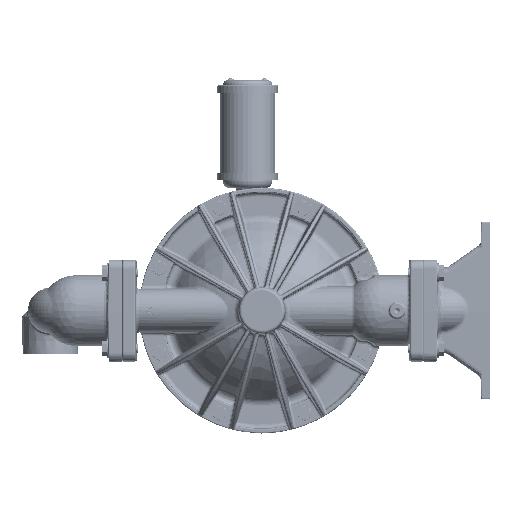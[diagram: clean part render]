
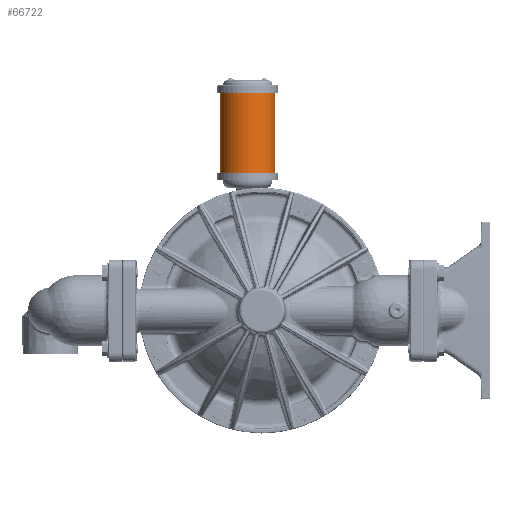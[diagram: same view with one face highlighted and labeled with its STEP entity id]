
A CAD part, left-side view. The second image highlights one B-rep face of the part: STEP entity #66722.
In plain terms, the highlighted cylindrical face has radius 39.243 mm (diameter 78.486 mm), a partial arc.
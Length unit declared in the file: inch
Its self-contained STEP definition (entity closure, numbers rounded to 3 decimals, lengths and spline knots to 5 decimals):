
#12779 = DIRECTION ( 'NONE',  ( 0., 1., 0. ) ) ;
#14230 = CARTESIAN_POINT ( 'NONE',  ( -0.005, 2.351, 7.781 ) ) ;
#14353 = EDGE_CURVE ( 'NONE', #367775, #18199, #278618, .T. ) ;
#18199 = VERTEX_POINT ( 'NONE', #314179 ) ;
#19008 = ORIENTED_EDGE ( 'NONE', *, *, #325487, .F. ) ;
#49532 = CARTESIAN_POINT ( 'NONE',  ( -0.005, 0.806, 12.26 ) ) ;
#66722 = ADVANCED_FACE ( 'NONE', ( #353715 ), #399504, .T. ) ;
#67165 = AXIS2_PLACEMENT_3D ( 'NONE', #49532, #327879, #12779 ) ;
#96458 = CARTESIAN_POINT ( 'NONE',  ( -0.005, 2.351, 12.26 ) ) ;
#103836 = DIRECTION ( 'NONE',  ( 0., 0., 1. ) ) ;
#104722 = EDGE_CURVE ( 'NONE', #244715, #18199, #133182, .T. ) ;
#105057 = DIRECTION ( 'NONE',  ( 0., 0., 1. ) ) ;
#117347 = LINE ( 'NONE', #257634, #432744 ) ;
#133182 = CIRCLE ( 'NONE', #67165, 1.545 ) ;
#160171 = DIRECTION ( 'NONE',  ( 0., -1., 0. ) ) ;
#171521 = CIRCLE ( 'NONE', #288998, 1.545 ) ;
#179063 = ORIENTED_EDGE ( 'NONE', *, *, #14353, .T. ) ;
#187566 = VERTEX_POINT ( 'NONE', #14230 ) ;
#191029 = DIRECTION ( 'NONE',  ( 0., 0., 1. ) ) ;
#209595 = CARTESIAN_POINT ( 'NONE',  ( -0.005, -0.739, 7.781 ) ) ;
#244715 = VERTEX_POINT ( 'NONE', #96458 ) ;
#246388 = CARTESIAN_POINT ( 'NONE',  ( -0.005, -0.739, 7.781 ) ) ;
#257634 = CARTESIAN_POINT ( 'NONE',  ( -0.005, 2.351, 7.781 ) ) ;
#278618 = LINE ( 'NONE', #209595, #361518 ) ;
#288998 = AXIS2_PLACEMENT_3D ( 'NONE', #331332, #191029, #443879 ) ;
#311613 = EDGE_CURVE ( 'NONE', #187566, #367775, #171521, .T. ) ;
#314179 = CARTESIAN_POINT ( 'NONE',  ( -0.005, -0.739, 12.26 ) ) ;
#325487 = EDGE_CURVE ( 'NONE', #187566, #244715, #117347, .T. ) ;
#326175 = AXIS2_PLACEMENT_3D ( 'NONE', #367244, #394994, #160171 ) ;
#327879 = DIRECTION ( 'NONE',  ( 0., 0., 1. ) ) ;
#331332 = CARTESIAN_POINT ( 'NONE',  ( -0.005, 0.806, 7.781 ) ) ;
#333428 = ORIENTED_EDGE ( 'NONE', *, *, #311613, .T. ) ;
#353715 = FACE_OUTER_BOUND ( 'NONE', #353906, .T. ) ;
#353906 = EDGE_LOOP ( 'NONE', ( #333428, #179063, #410619, #19008 ) ) ;
#361518 = VECTOR ( 'NONE', #103836, 39.37008 ) ;
#367244 = CARTESIAN_POINT ( 'NONE',  ( -0.005, 0.806, 13.285 ) ) ;
#367775 = VERTEX_POINT ( 'NONE', #246388 ) ;
#394994 = DIRECTION ( 'NONE',  ( 0., 0., -1. ) ) ;
#399504 = CYLINDRICAL_SURFACE ( 'NONE', #326175, 1.545 ) ;
#410619 = ORIENTED_EDGE ( 'NONE', *, *, #104722, .F. ) ;
#432744 = VECTOR ( 'NONE', #105057, 39.37008 ) ;
#443879 = DIRECTION ( 'NONE',  ( 0., 1., 0. ) ) ;
